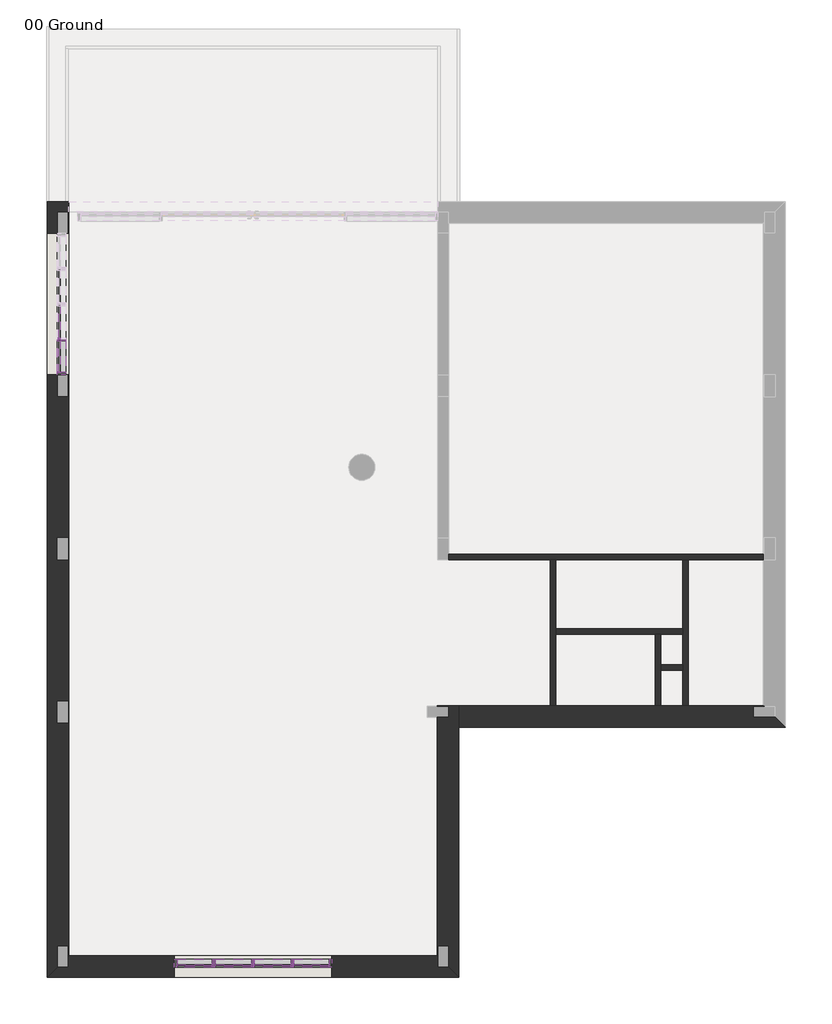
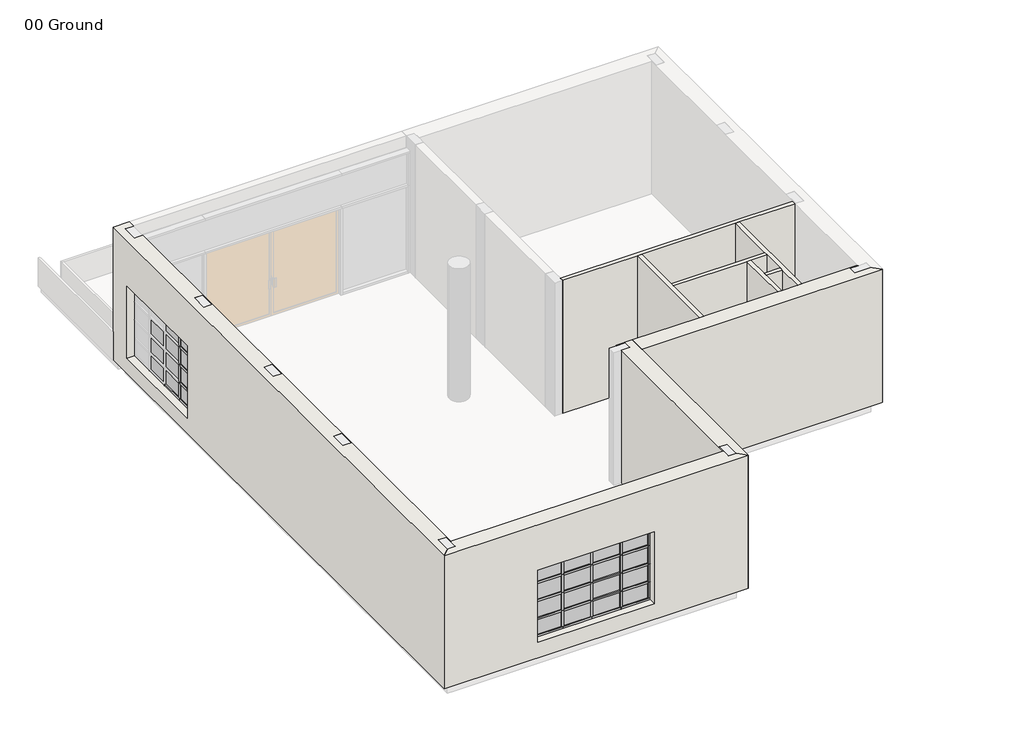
# One storey, part 1 of 2: 54 members, 27 plates, 10 walls.
"""IFC4 building model written with IfcOpenShell, lengths in millimetres."""

from ifc_helpers import new_model, si_unit, origin, origin_with_axes, place, context, project, spatial, polyline, outline, extrude, faceted_brep, transform, mapped, element, save
from components import rectangular_mullion_50_x_150mm_fef40266, rectangular_mullion_50_x_150mm_4130c5bf, rectangular_mullion_50_x_150mm_a9044063, rectangular_mullion_50_x_150mm_1348d4e1, rectangular_mullion_50_x_150mm_129a33a7, rectangular_mullion_50_x_150mm_05a43cda, rectangular_mullion_50_x_150mm_89c22e8d, rectangular_mullion_50_x_150mm_42d59fea, rectangular_mullion_50_x_150mm_5618a3b2, rectangular_mullion_50_x_150mm_9d7ed0e7, rectangular_mullion_50_x_150mm_3942d5f1, system_panel_glazed_24712de8, system_panel_glazed_68d5ac44, system_panel_glazed_d9146cf5, system_panel_glazed_aea024ea, system_panel_glazed_f545c6ae, system_panel_glazed_1a6db426, system_panel_glazed_5c27190a, system_panel_glazed_fdc58650

model = new_model("IFC4")

# Units and contexts
model_context = context("Model", 3, world=origin())
ifc_project = project(units=[si_unit("LENGTHUNIT", "METRE", prefix="MILLI")], contexts=[model_context])

# Site, building, storey
site = spatial("IfcSite", under=ifc_project)
building = spatial("IfcBuilding", under=site)
storey = spatial("IfcBuildingStorey", under=building, Name="00 Ground", Elevation=0.0)

# Members
placement = place(None, origin())
rectangular_mullion_50_x_150mm_shape = rectangular_mullion_50_x_150mm_fef40266(model_context)
element("IfcMember", 1, ObjectType="Rectangular Mullion : 50 x 150mm", at=placement, inside=storey, context=model_context, shape_type="MappedRepresentation", body=[
    mapped(rectangular_mullion_50_x_150mm_shape, transform((-3272.5407999, -7487.7101648, 2300.0), x_axis=(0.0, 0.0, 1.0), y_axis=(0.0, -1.0, 0.0), z_axis=(1.0, 0.0, 0.0))),
])
element("IfcMember", 2, ObjectType="Rectangular Mullion : 50 x 150mm", at=placement, inside=storey, context=model_context, shape_type="MappedRepresentation", body=[
    mapped(rectangular_mullion_50_x_150mm_shape, transform((-5447.5407998, -7487.7101648, 2300.0), x_axis=(0.0, 0.0, 1.0), y_axis=(0.0, -1.0, 0.0), z_axis=(1.0, 0.0, 0.0))),
])
rectangular_mullion_50_x_150mm_2_shape = rectangular_mullion_50_x_150mm_4130c5bf(model_context)
element("IfcMember", 3, ObjectType="Rectangular Mullion : 50 x 150mm", at=placement, inside=storey, context=model_context, shape_type="MappedRepresentation", body=[
    mapped(rectangular_mullion_50_x_150mm_2_shape, transform((-4722.5407999, -7487.7101648, 2300.0), x_axis=(0.0, 0.0, 1.0), y_axis=(0.0, -1.0, 0.0), z_axis=(1.0, 0.0, 0.0))),
])
element("IfcMember", 4, ObjectType="Rectangular Mullion : 50 x 150mm", at=placement, inside=storey, context=model_context, shape_type="MappedRepresentation", body=[
    mapped(rectangular_mullion_50_x_150mm_2_shape, transform((-3997.5408001, -7487.7101648, 2300.0), x_axis=(0.0, 0.0, 1.0), y_axis=(0.0, -1.0, 0.0), z_axis=(1.0, 0.0, 0.0))),
])
element("IfcMember", 5, ObjectType="Rectangular Mullion : 50 x 150mm", at=placement, inside=storey, context=model_context, shape_type="MappedRepresentation", body=[
    mapped(rectangular_mullion_50_x_150mm_shape, transform((-6172.5407999, -7487.7101648, 400.0), x_axis=(0.0, 0.0, -1.0), y_axis=(0.0, -1.0, 0.0), z_axis=(-1.0, 0.0, 0.0))),
])
element("IfcMember", 6, ObjectType="Rectangular Mullion : 50 x 150mm", at=placement, inside=storey, context=model_context, shape_type="MappedRepresentation", body=[
    mapped(rectangular_mullion_50_x_150mm_2_shape, transform((-5447.5407998, -7487.7101648, 400.0), x_axis=(0.0, 0.0, -1.0), y_axis=(0.0, -1.0, 0.0), z_axis=(-1.0, 0.0, 0.0))),
])
element("IfcMember", 7, ObjectType="Rectangular Mullion : 50 x 150mm", at=placement, inside=storey, context=model_context, shape_type="MappedRepresentation", body=[
    mapped(rectangular_mullion_50_x_150mm_2_shape, transform((-4722.5407999, -7487.7101648, 400.0), x_axis=(0.0, 0.0, -1.0), y_axis=(0.0, -1.0, 0.0), z_axis=(-1.0, 0.0, 0.0))),
])
element("IfcMember", 8, ObjectType="Rectangular Mullion : 50 x 150mm", at=placement, inside=storey, context=model_context, shape_type="MappedRepresentation", body=[
    mapped(rectangular_mullion_50_x_150mm_shape, transform((-3997.5408001, -7487.7101648, 400.0), x_axis=(0.0, 0.0, -1.0), y_axis=(0.0, -1.0, 0.0), z_axis=(-1.0, 0.0, 0.0))),
])
rectangular_mullion_50_x_150mm_3_shape = rectangular_mullion_50_x_150mm_a9044063(model_context)
element("IfcMember", 9, ObjectType="Rectangular Mullion : 50 x 150mm", at=placement, inside=storey, context=model_context, shape_type="MappedRepresentation", body=[
    mapped(rectangular_mullion_50_x_150mm_3_shape, transform((-3322.5407999, -7487.7101648, 875.0), x_axis=(0.0, 0.0, 1.0), y_axis=(0.0, -1.0, 0.0), z_axis=(1.0, 0.0, 0.0))),
])
element("IfcMember", 10, ObjectType="Rectangular Mullion : 50 x 150mm", at=placement, inside=storey, context=model_context, shape_type="MappedRepresentation", body=[
    mapped(rectangular_mullion_50_x_150mm_3_shape, transform((-3322.5407999, -7487.7101648, 1350.0), x_axis=(0.0, 0.0, 1.0), y_axis=(0.0, -1.0, 0.0), z_axis=(1.0, 0.0, 0.0))),
])
element("IfcMember", 11, ObjectType="Rectangular Mullion : 50 x 150mm", at=placement, inside=storey, context=model_context, shape_type="MappedRepresentation", body=[
    mapped(rectangular_mullion_50_x_150mm_3_shape, transform((-3322.5407999, -7487.7101648, 1825.0), x_axis=(0.0, 0.0, 1.0), y_axis=(0.0, -1.0, 0.0), z_axis=(1.0, 0.0, 0.0))),
])
element("IfcMember", 12, ObjectType="Rectangular Mullion : 50 x 150mm", at=placement, inside=storey, context=model_context, shape_type="MappedRepresentation", body=[
    mapped(rectangular_mullion_50_x_150mm_3_shape, transform((-5472.5407998, -7487.7101648, 875.0), x_axis=(0.0, 0.0, 1.0), y_axis=(0.0, -1.0, 0.0), z_axis=(1.0, 0.0, 0.0))),
])
element("IfcMember", 13, ObjectType="Rectangular Mullion : 50 x 150mm", at=placement, inside=storey, context=model_context, shape_type="MappedRepresentation", body=[
    mapped(rectangular_mullion_50_x_150mm_3_shape, transform((-5472.5407998, -7487.7101648, 1350.0), x_axis=(0.0, 0.0, 1.0), y_axis=(0.0, -1.0, 0.0), z_axis=(1.0, 0.0, 0.0))),
])
element("IfcMember", 14, ObjectType="Rectangular Mullion : 50 x 150mm", at=placement, inside=storey, context=model_context, shape_type="MappedRepresentation", body=[
    mapped(rectangular_mullion_50_x_150mm_3_shape, transform((-5472.5407998, -7487.7101648, 1825.0), x_axis=(0.0, 0.0, 1.0), y_axis=(0.0, -1.0, 0.0), z_axis=(1.0, 0.0, 0.0))),
])
rectangular_mullion_50_x_150mm_4_shape = rectangular_mullion_50_x_150mm_1348d4e1(model_context)
element("IfcMember", 15, ObjectType="Rectangular Mullion : 50 x 150mm", at=placement, inside=storey, context=model_context, shape_type="MappedRepresentation", body=[
    mapped(rectangular_mullion_50_x_150mm_4_shape, transform((-4747.5407999, -7487.7101648, 875.0), x_axis=(0.0, 0.0, 1.0), y_axis=(0.0, -1.0, 0.0), z_axis=(1.0, 0.0, 0.0))),
])
element("IfcMember", 16, ObjectType="Rectangular Mullion : 50 x 150mm", at=placement, inside=storey, context=model_context, shape_type="MappedRepresentation", body=[
    mapped(rectangular_mullion_50_x_150mm_4_shape, transform((-4022.5408001, -7487.7101648, 875.0), x_axis=(0.0, 0.0, 1.0), y_axis=(0.0, -1.0, 0.0), z_axis=(1.0, 0.0, 0.0))),
])
element("IfcMember", 17, ObjectType="Rectangular Mullion : 50 x 150mm", at=placement, inside=storey, context=model_context, shape_type="MappedRepresentation", body=[
    mapped(rectangular_mullion_50_x_150mm_4_shape, transform((-4747.5407999, -7487.7101648, 1350.0), x_axis=(0.0, 0.0, 1.0), y_axis=(0.0, -1.0, 0.0), z_axis=(1.0, 0.0, 0.0))),
])
element("IfcMember", 18, ObjectType="Rectangular Mullion : 50 x 150mm", at=placement, inside=storey, context=model_context, shape_type="MappedRepresentation", body=[
    mapped(rectangular_mullion_50_x_150mm_4_shape, transform((-4022.5408001, -7487.7101648, 1350.0), x_axis=(0.0, 0.0, 1.0), y_axis=(0.0, -1.0, 0.0), z_axis=(1.0, 0.0, 0.0))),
])
element("IfcMember", 19, ObjectType="Rectangular Mullion : 50 x 150mm", at=placement, inside=storey, context=model_context, shape_type="MappedRepresentation", body=[
    mapped(rectangular_mullion_50_x_150mm_4_shape, transform((-4747.5407999, -7487.7101648, 1825.0), x_axis=(0.0, 0.0, 1.0), y_axis=(0.0, -1.0, 0.0), z_axis=(1.0, 0.0, 0.0))),
])
element("IfcMember", 20, ObjectType="Rectangular Mullion : 50 x 150mm", at=placement, inside=storey, context=model_context, shape_type="MappedRepresentation", body=[
    mapped(rectangular_mullion_50_x_150mm_4_shape, transform((-4022.5408001, -7487.7101648, 1825.0), x_axis=(0.0, 0.0, 1.0), y_axis=(0.0, -1.0, 0.0), z_axis=(1.0, 0.0, 0.0))),
])
rectangular_mullion_50_x_150mm_5_shape = rectangular_mullion_50_x_150mm_129a33a7(model_context)
element("IfcMember", 21, ObjectType="Rectangular Mullion : 50 x 150mm", at=placement, inside=storey, context=model_context, shape_type="MappedRepresentation", body=[
    mapped(rectangular_mullion_50_x_150mm_5_shape, transform((-5447.5407998, -7487.7101648, 450.0), x_axis=(1.0, 0.0, 0.0), y_axis=(0.0, -1.0, 0.0), z_axis=(0.0, 0.0, -1.0))),
])
element("IfcMember", 22, ObjectType="Rectangular Mullion : 50 x 150mm", at=placement, inside=storey, context=model_context, shape_type="MappedRepresentation", body=[
    mapped(rectangular_mullion_50_x_150mm_5_shape, transform((-4722.5407999, -7487.7101648, 450.0), x_axis=(1.0, 0.0, 0.0), y_axis=(0.0, -1.0, 0.0), z_axis=(0.0, 0.0, -1.0))),
])
element("IfcMember", 23, ObjectType="Rectangular Mullion : 50 x 150mm", at=placement, inside=storey, context=model_context, shape_type="MappedRepresentation", body=[
    mapped(rectangular_mullion_50_x_150mm_5_shape, transform((-3997.5408001, -7487.7101648, 450.0), x_axis=(1.0, 0.0, 0.0), y_axis=(0.0, -1.0, 0.0), z_axis=(0.0, 0.0, -1.0))),
])
rectangular_mullion_50_x_150mm_6_shape = rectangular_mullion_50_x_150mm_05a43cda(model_context)
element("IfcMember", 24, ObjectType="Rectangular Mullion : 50 x 150mm", at=placement, inside=storey, context=model_context, shape_type="MappedRepresentation", body=[
    mapped(rectangular_mullion_50_x_150mm_6_shape, transform((-5447.5407998, -7487.7101648, 875.0), x_axis=(1.0, 0.0, 0.0), y_axis=(0.0, -1.0, 0.0), z_axis=(0.0, 0.0, -1.0))),
])
element("IfcMember", 25, ObjectType="Rectangular Mullion : 50 x 150mm", at=placement, inside=storey, context=model_context, shape_type="MappedRepresentation", body=[
    mapped(rectangular_mullion_50_x_150mm_6_shape, transform((-4722.5407999, -7487.7101648, 875.0), x_axis=(1.0, 0.0, 0.0), y_axis=(0.0, -1.0, 0.0), z_axis=(0.0, 0.0, -1.0))),
])
element("IfcMember", 26, ObjectType="Rectangular Mullion : 50 x 150mm", at=placement, inside=storey, context=model_context, shape_type="MappedRepresentation", body=[
    mapped(rectangular_mullion_50_x_150mm_6_shape, transform((-3997.5408001, -7487.7101648, 875.0), x_axis=(1.0, 0.0, 0.0), y_axis=(0.0, -1.0, 0.0), z_axis=(0.0, 0.0, -1.0))),
])
element("IfcMember", 27, ObjectType="Rectangular Mullion : 50 x 150mm", at=placement, inside=storey, context=model_context, shape_type="MappedRepresentation", body=[
    mapped(rectangular_mullion_50_x_150mm_6_shape, transform((-5447.5407998, -7487.7101648, 1350.0), x_axis=(1.0, 0.0, 0.0), y_axis=(0.0, -1.0, 0.0), z_axis=(0.0, 0.0, -1.0))),
])
element("IfcMember", 28, ObjectType="Rectangular Mullion : 50 x 150mm", at=placement, inside=storey, context=model_context, shape_type="MappedRepresentation", body=[
    mapped(rectangular_mullion_50_x_150mm_6_shape, transform((-4722.5407999, -7487.7101648, 1350.0), x_axis=(1.0, 0.0, 0.0), y_axis=(0.0, -1.0, 0.0), z_axis=(0.0, 0.0, -1.0))),
])
element("IfcMember", 29, ObjectType="Rectangular Mullion : 50 x 150mm", at=placement, inside=storey, context=model_context, shape_type="MappedRepresentation", body=[
    mapped(rectangular_mullion_50_x_150mm_6_shape, transform((-3997.5408001, -7487.7101648, 1350.0), x_axis=(1.0, 0.0, 0.0), y_axis=(0.0, -1.0, 0.0), z_axis=(0.0, 0.0, -1.0))),
])
element("IfcMember", 30, ObjectType="Rectangular Mullion : 50 x 150mm", at=placement, inside=storey, context=model_context, shape_type="MappedRepresentation", body=[
    mapped(rectangular_mullion_50_x_150mm_5_shape, transform((-5447.5407998, -7487.7101648, 1825.0), x_axis=(1.0, 0.0, 0.0), y_axis=(0.0, -1.0, 0.0), z_axis=(0.0, 0.0, -1.0))),
])
element("IfcMember", 31, ObjectType="Rectangular Mullion : 50 x 150mm", at=placement, inside=storey, context=model_context, shape_type="MappedRepresentation", body=[
    mapped(rectangular_mullion_50_x_150mm_5_shape, transform((-4722.5407999, -7487.7101648, 1825.0), x_axis=(1.0, 0.0, 0.0), y_axis=(0.0, -1.0, 0.0), z_axis=(0.0, 0.0, -1.0))),
])
element("IfcMember", 32, ObjectType="Rectangular Mullion : 50 x 150mm", at=placement, inside=storey, context=model_context, shape_type="MappedRepresentation", body=[
    mapped(rectangular_mullion_50_x_150mm_5_shape, transform((-3997.5408001, -7487.7101648, 1825.0), x_axis=(1.0, 0.0, 0.0), y_axis=(0.0, -1.0, 0.0), z_axis=(0.0, 0.0, -1.0))),
])
rectangular_mullion_50_x_150mm_7_shape = rectangular_mullion_50_x_150mm_89c22e8d(model_context)
element("IfcMember", 33, ObjectType="Rectangular Mullion : 50 x 150mm", at=placement, inside=storey, context=model_context, shape_type="MappedRepresentation", body=[
    mapped(rectangular_mullion_50_x_150mm_7_shape, transform((-3272.5407999, -7487.7101648, 450.0), x_axis=(1.0, 0.0, 0.0), y_axis=(0.0, -1.0, 0.0), z_axis=(0.0, 0.0, -1.0))),
])
rectangular_mullion_50_x_150mm_8_shape = rectangular_mullion_50_x_150mm_42d59fea(model_context)
element("IfcMember", 34, ObjectType="Rectangular Mullion : 50 x 150mm", at=placement, inside=storey, context=model_context, shape_type="MappedRepresentation", body=[
    mapped(rectangular_mullion_50_x_150mm_8_shape, transform((-3272.5407999, -7487.7101648, 875.0), x_axis=(1.0, 0.0, 0.0), y_axis=(0.0, -1.0, 0.0), z_axis=(0.0, 0.0, -1.0))),
])
element("IfcMember", 35, ObjectType="Rectangular Mullion : 50 x 150mm", at=placement, inside=storey, context=model_context, shape_type="MappedRepresentation", body=[
    mapped(rectangular_mullion_50_x_150mm_8_shape, transform((-3272.5407999, -7487.7101648, 1350.0), x_axis=(1.0, 0.0, 0.0), y_axis=(0.0, -1.0, 0.0), z_axis=(0.0, 0.0, -1.0))),
])
element("IfcMember", 36, ObjectType="Rectangular Mullion : 50 x 150mm", at=placement, inside=storey, context=model_context, shape_type="MappedRepresentation", body=[
    mapped(rectangular_mullion_50_x_150mm_7_shape, transform((-3272.5407999, -7487.7101648, 1825.0), x_axis=(1.0, 0.0, 0.0), y_axis=(0.0, -1.0, 0.0), z_axis=(0.0, 0.0, -1.0))),
])
element("IfcMember", 37, ObjectType="Rectangular Mullion : 50 x 150mm", at=placement, inside=storey, context=model_context, shape_type="MappedRepresentation", body=[
    mapped(rectangular_mullion_50_x_150mm_7_shape, transform((-6172.5407999, -7487.7101648, 2250.0), x_axis=(-1.0, 0.0, 0.0), y_axis=(0.0, -1.0, 0.0), z_axis=(0.0, 0.0, 1.0))),
])
element("IfcMember", 38, ObjectType="Rectangular Mullion : 50 x 150mm", at=placement, inside=storey, context=model_context, shape_type="MappedRepresentation", body=[
    mapped(rectangular_mullion_50_x_150mm_7_shape, transform((-6172.5407999, -7487.7101648, 875.0), x_axis=(-1.0, 0.0, 0.0), y_axis=(0.0, -1.0, 0.0), z_axis=(0.0, 0.0, 1.0))),
])
element("IfcMember", 39, ObjectType="Rectangular Mullion : 50 x 150mm", at=placement, inside=storey, context=model_context, shape_type="MappedRepresentation", body=[
    mapped(rectangular_mullion_50_x_150mm_8_shape, transform((-6172.5407999, -7487.7101648, 1350.0), x_axis=(-1.0, 0.0, 0.0), y_axis=(0.0, -1.0, 0.0), z_axis=(0.0, 0.0, 1.0))),
])
element("IfcMember", 40, ObjectType="Rectangular Mullion : 50 x 150mm", at=placement, inside=storey, context=model_context, shape_type="MappedRepresentation", body=[
    mapped(rectangular_mullion_50_x_150mm_8_shape, transform((-6172.5407999, -7487.7101648, 1825.0), x_axis=(-1.0, 0.0, 0.0), y_axis=(0.0, -1.0, 0.0), z_axis=(0.0, 0.0, 1.0))),
])
rectangular_mullion_50_x_150mm_9_shape = rectangular_mullion_50_x_150mm_5618a3b2(model_context)
element("IfcMember", 41, ObjectType="Rectangular Mullion : 50 x 150mm", at=placement, inside=storey, context=model_context, shape_type="MappedRepresentation", body=[
    mapped(rectangular_mullion_50_x_150mm_9_shape, transform((-8247.5407999, 3987.2898354, 2300.0), x_axis=(0.0, 0.0, 1.0), y_axis=(1.0, 0.0, 0.0), z_axis=(0.0, 1.0, 0.0))),
])
element("IfcMember", 42, ObjectType="Rectangular Mullion : 50 x 150mm", at=placement, inside=storey, context=model_context, shape_type="MappedRepresentation", body=[
    mapped(rectangular_mullion_50_x_150mm_9_shape, transform((-8247.5407999, 3337.2898352, 400.0), x_axis=(0.0, 0.0, -1.0), y_axis=(1.0, 0.0, 0.0), z_axis=(0.0, -1.0, 0.0))),
])
rectangular_mullion_50_x_150mm_10_shape = rectangular_mullion_50_x_150mm_9d7ed0e7(model_context)
element("IfcMember", 43, ObjectType="Rectangular Mullion : 50 x 150mm", at=placement, inside=storey, context=model_context, shape_type="MappedRepresentation", body=[
    mapped(rectangular_mullion_50_x_150mm_10_shape, transform((-8247.5407999, 3987.2898354, 400.0), x_axis=(0.0, 0.0, -1.0), y_axis=(1.0, 0.0, 0.0), z_axis=(0.0, -1.0, 0.0))),
])
rectangular_mullion_50_x_150mm_11_shape = rectangular_mullion_50_x_150mm_3942d5f1(model_context)
element("IfcMember", 44, ObjectType="Rectangular Mullion : 50 x 150mm", at=placement, inside=storey, context=model_context, shape_type="MappedRepresentation", body=[
    mapped(rectangular_mullion_50_x_150mm_11_shape, transform((-8247.5407999, 3962.2898354, 875.0), x_axis=(0.0, 0.0, 1.0), y_axis=(1.0, 0.0, 0.0), z_axis=(0.0, 1.0, 0.0))),
])
element("IfcMember", 45, ObjectType="Rectangular Mullion : 50 x 150mm", at=placement, inside=storey, context=model_context, shape_type="MappedRepresentation", body=[
    mapped(rectangular_mullion_50_x_150mm_11_shape, transform((-8247.5407999, 3962.2898354, 1350.0), x_axis=(0.0, 0.0, 1.0), y_axis=(1.0, 0.0, 0.0), z_axis=(0.0, 1.0, 0.0))),
])
element("IfcMember", 46, ObjectType="Rectangular Mullion : 50 x 150mm", at=placement, inside=storey, context=model_context, shape_type="MappedRepresentation", body=[
    mapped(rectangular_mullion_50_x_150mm_11_shape, transform((-8247.5407999, 3962.2898354, 1825.0), x_axis=(0.0, 0.0, 1.0), y_axis=(1.0, 0.0, 0.0), z_axis=(0.0, 1.0, 0.0))),
])
element("IfcMember", 47, ObjectType="Rectangular Mullion : 50 x 150mm", at=placement, inside=storey, context=model_context, shape_type="MappedRepresentation", body=[
    mapped(rectangular_mullion_50_x_150mm_5_shape, transform((-8247.5407999, 3987.2898354, 450.0), x_axis=(0.0, 1.0, 0.0), y_axis=(1.0, 0.0, 0.0), z_axis=(0.0, 0.0, -1.0))),
])
element("IfcMember", 48, ObjectType="Rectangular Mullion : 50 x 150mm", at=placement, inside=storey, context=model_context, shape_type="MappedRepresentation", body=[
    mapped(rectangular_mullion_50_x_150mm_6_shape, transform((-8247.5407999, 3987.2898354, 875.0), x_axis=(0.0, 1.0, 0.0), y_axis=(1.0, 0.0, 0.0), z_axis=(0.0, 0.0, -1.0))),
])
element("IfcMember", 49, ObjectType="Rectangular Mullion : 50 x 150mm", at=placement, inside=storey, context=model_context, shape_type="MappedRepresentation", body=[
    mapped(rectangular_mullion_50_x_150mm_6_shape, transform((-8247.5407999, 3987.2898354, 1350.0), x_axis=(0.0, 1.0, 0.0), y_axis=(1.0, 0.0, 0.0), z_axis=(0.0, 0.0, -1.0))),
])
element("IfcMember", 50, ObjectType="Rectangular Mullion : 50 x 150mm", at=placement, inside=storey, context=model_context, shape_type="MappedRepresentation", body=[
    mapped(rectangular_mullion_50_x_150mm_5_shape, transform((-8247.5407999, 3987.2898354, 1825.0), x_axis=(0.0, 1.0, 0.0), y_axis=(1.0, 0.0, 0.0), z_axis=(0.0, 0.0, -1.0))),
])
element("IfcMember", 51, ObjectType="Rectangular Mullion : 50 x 150mm", at=placement, inside=storey, context=model_context, shape_type="MappedRepresentation", body=[
    mapped(rectangular_mullion_50_x_150mm_7_shape, transform((-8247.5407999, 3337.2898352, 2250.0), x_axis=(0.0, -1.0, 0.0), y_axis=(1.0, 0.0, 0.0), z_axis=(0.0, 0.0, 1.0))),
])
element("IfcMember", 52, ObjectType="Rectangular Mullion : 50 x 150mm", at=placement, inside=storey, context=model_context, shape_type="MappedRepresentation", body=[
    mapped(rectangular_mullion_50_x_150mm_7_shape, transform((-8247.5407999, 3337.2898352, 875.0), x_axis=(0.0, -1.0, 0.0), y_axis=(1.0, 0.0, 0.0), z_axis=(0.0, 0.0, 1.0))),
])
element("IfcMember", 53, ObjectType="Rectangular Mullion : 50 x 150mm", at=placement, inside=storey, context=model_context, shape_type="MappedRepresentation", body=[
    mapped(rectangular_mullion_50_x_150mm_8_shape, transform((-8247.5407999, 3337.2898352, 1350.0), x_axis=(0.0, -1.0, 0.0), y_axis=(1.0, 0.0, 0.0), z_axis=(0.0, 0.0, 1.0))),
])
element("IfcMember", 54, ObjectType="Rectangular Mullion : 50 x 150mm", at=placement, inside=storey, context=model_context, shape_type="MappedRepresentation", body=[
    mapped(rectangular_mullion_50_x_150mm_8_shape, transform((-8247.5407999, 3337.2898352, 1825.0), x_axis=(0.0, -1.0, 0.0), y_axis=(1.0, 0.0, 0.0), z_axis=(0.0, 0.0, 1.0))),
])

# Plates
system_panel_glazed_shape = system_panel_glazed_24712de8(model_context)
element("IfcPlate", 55, ObjectType="System Panel : Glazed", at=placement, inside=storey, context=model_context, shape_type="MappedRepresentation", body=[
    mapped(system_panel_glazed_shape, transform((-5797.5407999, -7487.7101648, 450.0), x_axis=(1.0, 0.0, 0.0), y_axis=(0.0, 1.0, 0.0), z_axis=(0.0, 0.0, 1.0))),
])
element("IfcPlate", 56, ObjectType="System Panel : Glazed", at=placement, inside=storey, context=model_context, shape_type="MappedRepresentation", body=[
    mapped(system_panel_glazed_shape, transform((-3647.5408, -7487.7101648, 450.0), x_axis=(1.0, 0.0, 0.0), y_axis=(0.0, 1.0, 0.0), z_axis=(0.0, 0.0, 1.0))),
])
element("IfcPlate", 57, ObjectType="System Panel : Glazed", at=placement, inside=storey, context=model_context, shape_type="MappedRepresentation", body=[
    mapped(system_panel_glazed_shape, transform((-5797.5407999, -7487.7101648, 1850.0), x_axis=(1.0, 0.0, 0.0), y_axis=(0.0, 1.0, 0.0), z_axis=(0.0, 0.0, 1.0))),
])
element("IfcPlate", 58, ObjectType="System Panel : Glazed", at=placement, inside=storey, context=model_context, shape_type="MappedRepresentation", body=[
    mapped(system_panel_glazed_shape, transform((-3647.5408, -7487.7101648, 1850.0), x_axis=(1.0, 0.0, 0.0), y_axis=(0.0, 1.0, 0.0), z_axis=(0.0, 0.0, 1.0))),
])
system_panel_glazed_2_shape = system_panel_glazed_68d5ac44(model_context)
element("IfcPlate", 59, ObjectType="System Panel : Glazed", at=placement, inside=storey, context=model_context, shape_type="MappedRepresentation", body=[
    mapped(system_panel_glazed_2_shape, transform((-5085.0407999, -7487.7101648, 450.0), x_axis=(1.0, 0.0, 0.0), y_axis=(0.0, 1.0, 0.0), z_axis=(0.0, 0.0, 1.0))),
])
element("IfcPlate", 60, ObjectType="System Panel : Glazed", at=placement, inside=storey, context=model_context, shape_type="MappedRepresentation", body=[
    mapped(system_panel_glazed_2_shape, transform((-4360.0408, -7487.7101648, 450.0), x_axis=(1.0, 0.0, 0.0), y_axis=(0.0, 1.0, 0.0), z_axis=(0.0, 0.0, 1.0))),
])
element("IfcPlate", 61, ObjectType="System Panel : Glazed", at=placement, inside=storey, context=model_context, shape_type="MappedRepresentation", body=[
    mapped(system_panel_glazed_2_shape, transform((-5085.0407999, -7487.7101648, 1850.0), x_axis=(1.0, 0.0, 0.0), y_axis=(0.0, 1.0, 0.0), z_axis=(0.0, 0.0, 1.0))),
])
element("IfcPlate", 62, ObjectType="System Panel : Glazed", at=placement, inside=storey, context=model_context, shape_type="MappedRepresentation", body=[
    mapped(system_panel_glazed_2_shape, transform((-4360.0408, -7487.7101648, 1850.0), x_axis=(1.0, 0.0, 0.0), y_axis=(0.0, 1.0, 0.0), z_axis=(0.0, 0.0, 1.0))),
])
system_panel_glazed_3_shape = system_panel_glazed_d9146cf5(model_context)
element("IfcPlate", 63, ObjectType="System Panel : Glazed", at=placement, inside=storey, context=model_context, shape_type="MappedRepresentation", body=[
    mapped(system_panel_glazed_3_shape, transform((-5797.5407999, -7487.7101648, 900.0), x_axis=(1.0, 0.0, 0.0), y_axis=(0.0, 1.0, 0.0), z_axis=(0.0, 0.0, 1.0))),
])
element("IfcPlate", 64, ObjectType="System Panel : Glazed", at=placement, inside=storey, context=model_context, shape_type="MappedRepresentation", body=[
    mapped(system_panel_glazed_3_shape, transform((-3647.5408, -7487.7101648, 900.0), x_axis=(1.0, 0.0, 0.0), y_axis=(0.0, 1.0, 0.0), z_axis=(0.0, 0.0, 1.0))),
])
element("IfcPlate", 65, ObjectType="System Panel : Glazed", at=placement, inside=storey, context=model_context, shape_type="MappedRepresentation", body=[
    mapped(system_panel_glazed_3_shape, transform((-5797.5407999, -7487.7101648, 1375.0), x_axis=(1.0, 0.0, 0.0), y_axis=(0.0, 1.0, 0.0), z_axis=(0.0, 0.0, 1.0))),
])
element("IfcPlate", 66, ObjectType="System Panel : Glazed", at=placement, inside=storey, context=model_context, shape_type="MappedRepresentation", body=[
    mapped(system_panel_glazed_3_shape, transform((-3647.5408, -7487.7101648, 1375.0), x_axis=(1.0, 0.0, 0.0), y_axis=(0.0, 1.0, 0.0), z_axis=(0.0, 0.0, 1.0))),
])
system_panel_glazed_4_shape = system_panel_glazed_aea024ea(model_context)
element("IfcPlate", 67, ObjectType="System Panel : Glazed", at=placement, inside=storey, context=model_context, shape_type="MappedRepresentation", body=[
    mapped(system_panel_glazed_4_shape, transform((-5085.0407999, -7487.7101648, 900.0), x_axis=(1.0, 0.0, 0.0), y_axis=(0.0, 1.0, 0.0), z_axis=(0.0, 0.0, 1.0))),
])
element("IfcPlate", 68, ObjectType="System Panel : Glazed", at=placement, inside=storey, context=model_context, shape_type="MappedRepresentation", body=[
    mapped(system_panel_glazed_4_shape, transform((-4360.0408, -7487.7101648, 900.0), x_axis=(1.0, 0.0, 0.0), y_axis=(0.0, 1.0, 0.0), z_axis=(0.0, 0.0, 1.0))),
])
element("IfcPlate", 69, ObjectType="System Panel : Glazed", at=placement, inside=storey, context=model_context, shape_type="MappedRepresentation", body=[
    mapped(system_panel_glazed_4_shape, transform((-5085.0407999, -7487.7101648, 1375.0), x_axis=(1.0, 0.0, 0.0), y_axis=(0.0, 1.0, 0.0), z_axis=(0.0, 0.0, 1.0))),
])
element("IfcPlate", 70, ObjectType="System Panel : Glazed", at=placement, inside=storey, context=model_context, shape_type="MappedRepresentation", body=[
    mapped(system_panel_glazed_4_shape, transform((-4360.0408, -7487.7101648, 1375.0), x_axis=(1.0, 0.0, 0.0), y_axis=(0.0, 1.0, 0.0), z_axis=(0.0, 0.0, 1.0))),
])
system_panel_glazed_5_shape = system_panel_glazed_f545c6ae(model_context)
element("IfcPlate", 71, ObjectType="System Panel : Glazed", at=placement, inside=storey, context=model_context, shape_type="MappedRepresentation", body=[
    mapped(system_panel_glazed_5_shape, transform((-8247.5407999, 3674.7898353, 450.0), x_axis=(0.0, 1.0, 0.0), y_axis=(-1.0, 0.0, 0.0), z_axis=(0.0, 0.0, 1.0))),
])
element("IfcPlate", 72, ObjectType="System Panel : Glazed", at=placement, inside=storey, context=model_context, shape_type="MappedRepresentation", body=[
    mapped(system_panel_glazed_5_shape, transform((-8247.5407999, 3674.7898353, 1850.0), x_axis=(0.0, 1.0, 0.0), y_axis=(-1.0, 0.0, 0.0), z_axis=(0.0, 0.0, 1.0))),
])
system_panel_glazed_6_shape = system_panel_glazed_1a6db426(model_context)
element("IfcPlate", 73, ObjectType="System Panel : Glazed", at=placement, inside=storey, context=model_context, shape_type="MappedRepresentation", body=[
    mapped(system_panel_glazed_6_shape, transform((-8247.5407999, 4312.2898353, 450.0), x_axis=(0.0, 1.0, 0.0), y_axis=(-1.0, 0.0, 0.0), z_axis=(0.0, 0.0, 1.0))),
])
element("IfcPlate", 74, ObjectType="System Panel : Glazed", at=placement, inside=storey, context=model_context, shape_type="MappedRepresentation", body=[
    mapped(system_panel_glazed_6_shape, transform((-8247.5407999, 4962.2898352, 450.0), x_axis=(0.0, 1.0, 0.0), y_axis=(-1.0, 0.0, 0.0), z_axis=(0.0, 0.0, 1.0))),
])
element("IfcPlate", 75, ObjectType="System Panel : Glazed", at=placement, inside=storey, context=model_context, shape_type="MappedRepresentation", body=[
    mapped(system_panel_glazed_6_shape, transform((-8247.5407999, 4312.2898353, 1850.0), x_axis=(0.0, 1.0, 0.0), y_axis=(-1.0, 0.0, 0.0), z_axis=(0.0, 0.0, 1.0))),
])
system_panel_glazed_7_shape = system_panel_glazed_5c27190a(model_context)
element("IfcPlate", 76, ObjectType="System Panel : Glazed", at=placement, inside=storey, context=model_context, shape_type="MappedRepresentation", body=[
    mapped(system_panel_glazed_7_shape, transform((-8247.5407999, 3674.7898353, 900.0), x_axis=(0.0, 1.0, 0.0), y_axis=(-1.0, 0.0, 0.0), z_axis=(0.0, 0.0, 1.0))),
])
element("IfcPlate", 77, ObjectType="System Panel : Glazed", at=placement, inside=storey, context=model_context, shape_type="MappedRepresentation", body=[
    mapped(system_panel_glazed_7_shape, transform((-8247.5407999, 3674.7898353, 1375.0), x_axis=(0.0, 1.0, 0.0), y_axis=(-1.0, 0.0, 0.0), z_axis=(0.0, 0.0, 1.0))),
])
system_panel_glazed_8_shape = system_panel_glazed_fdc58650(model_context)
element("IfcPlate", 78, ObjectType="System Panel : Glazed", at=placement, inside=storey, context=model_context, shape_type="MappedRepresentation", body=[
    mapped(system_panel_glazed_8_shape, transform((-8247.5407999, 4312.2898353, 900.0), x_axis=(0.0, 1.0, 0.0), y_axis=(-1.0, 0.0, 0.0), z_axis=(0.0, 0.0, 1.0))),
])
element("IfcPlate", 79, ObjectType="System Panel : Glazed", at=placement, inside=storey, context=model_context, shape_type="MappedRepresentation", body=[
    mapped(system_panel_glazed_8_shape, transform((-8247.5407999, 4962.2898352, 900.0), x_axis=(0.0, 1.0, 0.0), y_axis=(-1.0, 0.0, 0.0), z_axis=(0.0, 0.0, 1.0))),
])
element("IfcPlate", 80, ObjectType="System Panel : Glazed", at=placement, inside=storey, context=model_context, shape_type="MappedRepresentation", body=[
    mapped(system_panel_glazed_8_shape, transform((-8247.5407999, 4312.2898353, 1375.0), x_axis=(0.0, 1.0, 0.0), y_axis=(-1.0, 0.0, 0.0), z_axis=(0.0, 0.0, 1.0))),
])
element("IfcPlate", 81, ObjectType="System Panel : Glazed", at=placement, inside=storey, context=model_context, shape_type="MappedRepresentation", body=[
    mapped(system_panel_glazed_8_shape, transform((-8247.5407999, 4962.2898352, 1375.0), x_axis=(0.0, 1.0, 0.0), y_axis=(-1.0, 0.0, 0.0), z_axis=(0.0, 0.0, 1.0))),
])

# Walls
element("IfcWall", 82, ObjectType="Exterior - Brick on CMU", at=placement, inside=storey, context=model_context, shape_type="Brep", body=[
    faceted_brep([(-937.5407999, -7747.7101648, 0.0), (-937.5407999, -3147.7101648, 0.0), (-937.5407999, -2749.7101648, 0.0), (-937.5407999, -2749.7101648, 3500.0), (-937.5407999, -3147.7101648, 3500.0), (-937.5407999, -7747.7101648, 3500.0), (-1335.5407999, -2749.7101648, 3500.0), (-1335.5407999, -2749.7101648, 0.0), (-1335.5407999, -2762.7101648, 0.0), (-1335.5407999, -2762.7101648, 3500.0), (-1335.5407999, -7349.7101648, 0.0), (-1335.5407999, -7349.7101648, 3500.0), (-1335.5407999, -2962.7101648, 3500.0), (-1335.5407999, -2962.7101648, 0.0), (-1122.5407999, -7562.7101648, 0.0), (-1122.5407999, -7162.7101648, 0.0), (-1322.5407999, -7162.7101648, 0.0), (-1322.5407999, -7362.7101648, 0.0), (-1122.5407999, -2962.7101648, 0.0), (-1122.5407999, -2762.7101648, 0.0), (-1122.5407999, -2762.7101648, 3500.0), (-1122.5407999, -2962.7101648, 3500.0), (-1322.5407999, -7362.7101648, 3500.0), (-1322.5407999, -7162.7101648, 3500.0), (-1122.5407999, -7162.7101648, 3500.0), (-1122.5407999, -7562.7101648, 3500.0)], [[[0, 1, 2, 3, 4, 5]], [[6, 7, 8, 9]], [[10, 11, 12, 13]], [[2, 1, 0, 14, 15, 16, 17, 10, 13, 18, 19, 8, 7]], [[5, 4, 3, 6, 9, 20, 21, 12, 11, 22, 23, 24, 25]], [[3, 2, 7, 6]], [[0, 5, 25, 14]], [[11, 10, 17, 22]], [[20, 19, 18, 21]], [[21, 18, 13, 12]], [[24, 15, 14, 25]], [[15, 24, 23, 16]], [[19, 20, 9, 8]], [[16, 23, 22, 17]]]),
])
element("IfcWall", 83, ObjectType="Exterior - Brick on CMU", at=placement, inside=storey, context=model_context, shape_type="Brep", body=[
    faceted_brep([(-937.5407999, -3147.7101648, 0.0), (5062.4592001, -3147.7101648, 0.0), (5062.4592001, -3147.7101648, 3500.0), (-937.5407999, -3147.7101648, 3500.0), (4664.4592001, -2749.7101648, 0.0), (3277.4592001, -2749.7101648, 0.0), (3177.4592001, -2749.7101648, 0.0), (2777.4592001, -2749.7101648, 0.0), (2677.4592001, -2749.7101648, 0.0), (846.9592001, -2749.7101648, 0.0), (746.9592001, -2749.7101648, 0.0), (-937.5407999, -2749.7101648, 0.0), (-937.5407999, -2749.7101648, 3500.0), (746.9592001, -2749.7101648, 3500.0), (846.9592001, -2749.7101648, 3500.0), (2677.4592001, -2749.7101648, 3500.0), (2777.4592001, -2749.7101648, 3500.0), (3177.4592001, -2749.7101648, 3500.0), (3277.4592001, -2749.7101648, 3500.0), (4664.4592001, -2749.7101648, 3500.0), (4677.4592001, -2762.7101648, 0.0), (4477.4592001, -2762.7101648, 0.0), (4477.4592001, -2962.7101648, 0.0), (4877.4592001, -2962.7101648, 0.0), (4877.4592001, -2962.7101648, 3500.0), (4477.4592001, -2962.7101648, 3500.0), (4477.4592001, -2762.7101648, 3500.0), (4677.4592001, -2762.7101648, 3500.0)], [[[0, 1, 2, 3]], [[4, 5, 6, 7, 8, 9, 10, 11, 12, 13, 14, 15, 16, 17, 18, 19]], [[1, 0, 11, 10, 9, 8, 7, 6, 5, 4, 20, 21, 22, 23]], [[3, 2, 24, 25, 26, 27, 19, 18, 17, 16, 15, 14, 13, 12]], [[0, 3, 12, 11]], [[2, 1, 23, 24]], [[4, 19, 27, 20]], [[22, 25, 24, 23]], [[21, 26, 25, 22]], [[26, 21, 20, 27]]]),
])
element("IfcWall", 84, ObjectType="Exterior - Brick on CMU", at=placement, inside=storey, context=model_context, shape_type="Brep", body=[
    faceted_brep([(-1335.5407999, -7349.7101648, 0.0), (-8109.5407999, -7349.7101648, 0.0), (-8109.5407999, -7349.7101648, 3500.0), (-1335.5407999, -7349.7101648, 3500.0), (-6172.5407999, -7349.7101648, 2300.0), (-6172.5407999, -7349.7101648, 400.0), (-3272.5407999, -7349.7101648, 400.0), (-3272.5407999, -7349.7101648, 2300.0), (-8507.5407999, -7747.7101648, 0.0), (-937.5407999, -7747.7101648, 0.0), (-937.5407999, -7747.7101648, 3500.0), (-8507.5407999, -7747.7101648, 3500.0), (-6172.5407999, -7747.7101648, 400.0), (-6172.5407999, -7747.7101648, 2300.0), (-3272.5407999, -7747.7101648, 2300.0), (-3272.5407999, -7747.7101648, 400.0), (-1322.5407999, -7362.7101648, 0.0), (-1322.5407999, -7562.7101648, 0.0), (-1122.5407999, -7562.7101648, 0.0), (-8322.5407999, -7562.7101648, 0.0), (-8122.5407999, -7562.7101648, 0.0), (-8122.5407999, -7362.7101648, 0.0), (-8122.5407999, -7362.7101648, 3500.0), (-8122.5407999, -7562.7101648, 3500.0), (-8322.5407999, -7562.7101648, 3500.0), (-1122.5407999, -7562.7101648, 3500.0), (-1322.5407999, -7562.7101648, 3500.0), (-1322.5407999, -7362.7101648, 3500.0)], [[[0, 1, 2, 3], [4, 5, 6, 7]], [[8, 9, 10, 11], [12, 13, 14, 15]], [[1, 0, 16, 17, 18, 9, 8, 19, 20, 21]], [[3, 2, 22, 23, 24, 11, 10, 25, 26, 27]], [[0, 3, 27, 16]], [[10, 9, 18, 25]], [[2, 1, 21, 22]], [[8, 11, 24, 19]], [[4, 13, 12, 5]], [[13, 4, 7, 14]], [[14, 7, 6, 15]], [[5, 12, 15, 6]], [[20, 23, 22, 21]], [[23, 20, 19, 24]], [[17, 26, 25, 18]], [[26, 17, 16, 27]]]),
])
element("IfcWall", 85, ObjectType="Exterior - Brick on CMU", at=placement, inside=storey, context=model_context, shape_type="Brep", body=[
    faceted_brep([(-8109.5407999, -7349.7101648, 0.0), (-8109.5407999, 6522.2898352, 0.0), (-8109.5407999, 6522.2898352, 3500.0), (-8109.5407999, 6337.2898352, 3500.0), (-8109.5407999, 6337.2898352, 3200.0), (-8109.5407999, 5937.2898352, 3200.0), (-8109.5407999, 5937.2898352, 3500.0), (-8109.5407999, -7349.7101648, 3500.0), (-8109.5407999, 3337.2898352, 400.0), (-8109.5407999, 3337.2898352, 2300.0), (-8109.5407999, 5937.2898352, 2300.0), (-8109.5407999, 5937.2898352, 400.0), (-8507.5407999, 6522.2898352, 0.0), (-8507.5407999, -7747.7101648, 0.0), (-8507.5407999, -7747.7101648, 3500.0), (-8507.5407999, 6522.2898352, 3500.0), (-8507.5407999, 3337.2898352, 2300.0), (-8507.5407999, 3337.2898352, 400.0), (-8507.5407999, 5937.2898352, 400.0), (-8507.5407999, 5937.2898352, 2300.0), (-8122.5407999, -7362.7101648, 0.0), (-8122.5407999, -7162.7101648, 0.0), (-8322.5407999, -7162.7101648, 0.0), (-8322.5407999, -7562.7101648, 0.0), (-8322.5407999, -3062.7101648, 0.0), (-8122.5407999, -3062.7101648, 0.0), (-8122.5407999, -2662.7101648, 0.0), (-8322.5407999, -2662.7101648, 0.0), (-8322.5407999, -62.7101648, 0.0), (-8122.5407999, -62.7101648, 0.0), (-8122.5407999, 337.2898352, 0.0), (-8322.5407999, 337.2898352, 0.0), (-8322.5407999, 2937.2898352, 0.0), (-8122.5407999, 2937.2898352, 0.0), (-8122.5407999, 3337.2898352, 0.0), (-8322.5407999, 3337.2898352, 0.0), (-8322.5407999, 5937.2898352, 0.0), (-8122.5407999, 5937.2898352, 0.0), (-8122.5407999, 6337.2898352, 0.0), (-8322.5407999, 6337.2898352, 0.0), (-8322.5407999, -7562.7101648, 3500.0), (-8322.5407999, -7162.7101648, 3500.0), (-8122.5407999, -7162.7101648, 3500.0), (-8122.5407999, -7362.7101648, 3500.0), (-8122.5407999, 5937.2898352, 3500.0), (-8322.5407999, 5937.2898352, 3500.0), (-8322.5407999, 6337.2898352, 3500.0), (-8122.5407999, 6337.2898352, 3500.0), (-8122.5407999, -3062.7101648, 3500.0), (-8322.5407999, -3062.7101648, 3500.0), (-8322.5407999, -2662.7101648, 3500.0), (-8122.5407999, -2662.7101648, 3500.0), (-8122.5407999, -62.7101648, 3500.0), (-8322.5407999, -62.7101648, 3500.0), (-8322.5407999, 337.2898352, 3500.0), (-8122.5407999, 337.2898352, 3500.0), (-8122.5407999, 2937.2898352, 3500.0), (-8322.5407999, 2937.2898352, 3500.0), (-8322.5407999, 3337.2898352, 3500.0), (-8122.5407999, 3337.2898352, 3500.0), (-8122.5407999, 3337.2898352, 400.0), (-8122.5407999, 3337.2898352, 2300.0), (-8322.5407999, 3337.2898352, 2300.0), (-8322.5407999, 3337.2898352, 400.0), (-8322.5407999, 5937.2898352, 2300.0), (-8122.5407999, 5937.2898352, 2300.0), (-8122.5407999, 5937.2898352, 400.0), (-8322.5407999, 5937.2898352, 400.0), (-8122.5407999, 5937.2898352, 3200.0), (-8122.5407999, 6337.2898352, 3200.0)], [[[0, 1, 2, 3, 4, 5, 6, 7], [8, 9, 10, 11]], [[12, 13, 14, 15], [16, 17, 18, 19]], [[1, 0, 20, 21, 22, 23, 13, 12], [24, 25, 26, 27], [28, 29, 30, 31], [32, 33, 34, 35], [36, 37, 38, 39]], [[2, 1, 12, 15]], [[15, 14, 40, 41, 42, 43, 7, 6, 44, 45, 46, 47, 3, 2], [48, 49, 50, 51], [52, 53, 54, 55], [56, 57, 58, 59]], [[0, 7, 43, 20]], [[14, 13, 23, 40]], [[9, 8, 60, 61]], [[17, 16, 62, 63]], [[10, 9, 61, 62, 16, 19, 64, 65]], [[11, 10, 65, 66]], [[19, 18, 67, 64]], [[8, 11, 66, 67, 18, 17, 63, 60]], [[22, 41, 40, 23]], [[21, 42, 41, 22]], [[48, 25, 24, 49]], [[49, 24, 27, 50]], [[26, 51, 50, 27]], [[52, 29, 28, 53]], [[53, 28, 31, 54]], [[30, 55, 54, 31]], [[56, 33, 32, 57]], [[57, 32, 35, 63, 62, 58]], [[59, 58, 62, 61]], [[63, 35, 34, 60]], [[37, 36, 67, 66]], [[64, 45, 44, 6, 5, 68, 65]], [[39, 46, 45, 64, 67, 36]], [[42, 21, 20, 43]], [[25, 48, 51, 26]], [[29, 52, 55, 30]], [[33, 56, 59, 61, 60, 34]], [[37, 66, 65, 68, 69, 38]], [[4, 69, 68, 5]], [[46, 39, 38, 69, 4, 3, 47]]]),
])
element("IfcWall", 86, ObjectType="Generic - 100mm", at=placement, inside=storey, context=model_context, shape_type="Brep", body=[
    faceted_brep([(3277.4592001, -2749.7101648, 0.0), (3277.4592001, -62.7101648, 0.0), (3277.4592001, -62.7101648, 3500.0), (3277.4592001, -2749.7101648, 3500.0), (3177.4592001, -2749.7101648, 0.0), (3177.4592001, -2749.7101648, 3500.0), (3177.4592001, -2097.7101648, 3500.0), (3177.4592001, -1997.7101648, 3500.0), (3177.4592001, -1432.7101648, 3500.0), (3177.4592001, -1332.7101648, 3500.0), (3177.4592001, -62.7101648, 3500.0), (3177.4592001, -62.7101648, 0.0), (3177.4592001, -1332.7101648, 0.0), (3177.4592001, -1432.7101648, 0.0), (3177.4592001, -1997.7101648, 0.0), (3177.4592001, -2097.7101648, 0.0)], [[[0, 1, 2, 3]], [[4, 5, 6, 7, 8, 9, 10, 11, 12, 13, 14, 15]], [[1, 0, 4, 15, 14, 13, 12, 11]], [[3, 2, 10, 9, 8, 7, 6, 5]], [[0, 3, 5, 4]], [[2, 1, 11, 10]]]),
])
element("IfcWall", 87, ObjectType="Generic - 100mm", at=placement, inside=storey, context=model_context, shape_type="Brep", body=[
    faceted_brep([(4664.4592001, 37.2898352, 0.0), (-1122.5407999, 37.2898352, 0.0), (-1122.5407999, 37.2898352, 3500.0), (4664.4592001, 37.2898352, 3500.0), (4664.4592001, -62.7101648, 0.0), (4664.4592001, -62.7101648, 3500.0), (3277.4592001, -62.7101648, 3500.0), (3177.4592001, -62.7101648, 3500.0), (846.9592001, -62.7101648, 3500.0), (746.9592001, -62.7101648, 3500.0), (-1122.5407999, -62.7101648, 3500.0), (-1122.5407999, -62.7101648, 0.0), (746.9592001, -62.7101648, 0.0), (846.9592001, -62.7101648, 0.0), (3177.4592001, -62.7101648, 0.0), (3277.4592001, -62.7101648, 0.0)], [[[0, 1, 2, 3]], [[4, 5, 6, 7, 8, 9, 10, 11, 12, 13, 14, 15]], [[1, 0, 4, 15, 14, 13, 12, 11]], [[3, 2, 10, 9, 8, 7, 6, 5]], [[2, 1, 11, 10]], [[0, 3, 5, 4]]]),
])
element("IfcWall", 88, ObjectType="Generic - 100mm", at=placement, inside=storey, context=model_context, shape_type="Brep", body=[
    faceted_brep([(846.9592001, -2749.7101648, 0.0), (846.9592001, -1432.7101648, 0.0), (846.9592001, -1332.7101648, 0.0), (846.9592001, -62.7101648, 0.0), (846.9592001, -62.7101648, 3500.0), (846.9592001, -1332.7101648, 3500.0), (846.9592001, -1432.7101648, 3500.0), (846.9592001, -2749.7101648, 3500.0), (746.9592001, -2749.7101648, 0.0), (746.9592001, -2749.7101648, 3500.0), (746.9592001, -62.7101648, 3500.0), (746.9592001, -62.7101648, 0.0)], [[[0, 1, 2, 3, 4, 5, 6, 7]], [[8, 9, 10, 11]], [[3, 2, 1, 0, 8, 11]], [[7, 6, 5, 4, 10, 9]], [[0, 7, 9, 8]], [[4, 3, 11, 10]]]),
])
element("IfcWall", 89, ObjectType="Generic - 100mm", at=placement, inside=storey, context=model_context, shape_type="Brep", body=[
    faceted_brep([(846.9592001, -1432.7101648, 0.0), (2677.4592001, -1432.7101648, 0.0), (2777.4592001, -1432.7101648, 0.0), (3177.4592001, -1432.7101648, 0.0), (3177.4592001, -1432.7101648, 3500.0), (2777.4592001, -1432.7101648, 3500.0), (2677.4592001, -1432.7101648, 3500.0), (846.9592001, -1432.7101648, 3500.0), (846.9592001, -1332.7101648, 0.0), (846.9592001, -1332.7101648, 3500.0), (3177.4592001, -1332.7101648, 3500.0), (3177.4592001, -1332.7101648, 0.0)], [[[0, 1, 2, 3, 4, 5, 6, 7]], [[8, 9, 10, 11]], [[3, 2, 1, 0, 8, 11]], [[7, 6, 5, 4, 10, 9]], [[4, 3, 11, 10]], [[0, 7, 9, 8]]]),
])
element("IfcWall", 90, ObjectType="Generic - 100mm", at=placement, inside=storey, context=model_context, shape_type="Brep", body=[
    faceted_brep([(2777.4592001, -2749.7101648, 0.0), (2777.4592001, -2097.7101648, 0.0), (2777.4592001, -1997.7101648, 0.0), (2777.4592001, -1432.7101648, 0.0), (2777.4592001, -1432.7101648, 3500.0), (2777.4592001, -1997.7101648, 3500.0), (2777.4592001, -2097.7101648, 3500.0), (2777.4592001, -2749.7101648, 3500.0), (2677.4592001, -2749.7101648, 0.0), (2677.4592001, -2749.7101648, 3500.0), (2677.4592001, -1432.7101648, 3500.0), (2677.4592001, -1432.7101648, 0.0)], [[[0, 1, 2, 3, 4, 5, 6, 7]], [[8, 9, 10, 11]], [[3, 2, 1, 0, 8, 11]], [[7, 6, 5, 4, 10, 9]], [[0, 7, 9, 8]], [[4, 3, 11, 10]]]),
])
element("IfcWall", 91, ObjectType="Generic - 100mm", at=placement, inside=storey, context=model_context, shape_type="SweptSolid", body=[
    extrude(outline(polyline([(3177.4592001, -2097.7101648), (2777.4592001, -2097.7101648), (2777.4592001, -1997.7101648), (3177.4592001, -1997.7101648), (3177.4592001, -2097.7101648)])), origin_with_axes(), (0.0, 0.0, 1.0), 3500.0),
])

save(model, "model.ifc")
